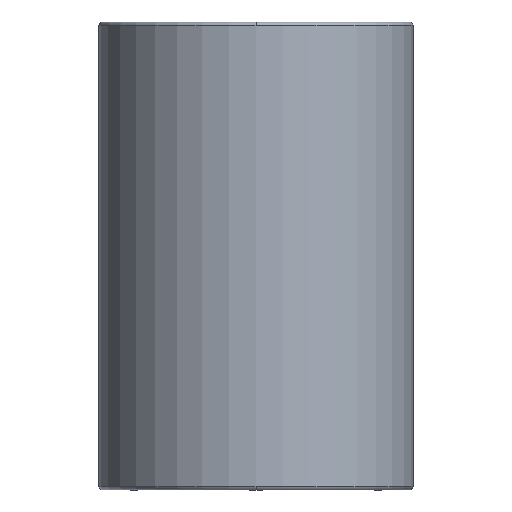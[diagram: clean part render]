
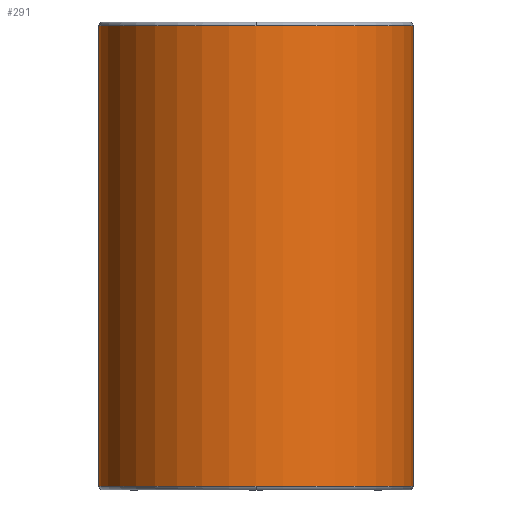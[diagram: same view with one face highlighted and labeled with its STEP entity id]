
A CAD part, front view. The second image highlights one B-rep face of the part: STEP entity #291.
In plain terms, the highlighted cylindrical face has radius 16.125 mm (diameter 32.25 mm), a partial arc.
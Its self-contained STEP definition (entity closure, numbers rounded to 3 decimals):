
#196=CARTESIAN_POINT('',(0.0,-16.125,30.1));
#197=VERTEX_POINT('',#196);
#223=CARTESIAN_POINT('',(-16.125,0.,30.1));
#224=VERTEX_POINT('',#223);
#232=CARTESIAN_POINT('',(0.0,0.,30.1));
#233=DIRECTION('',(0.0,0.0,1.0));
#234=DIRECTION('',(1.0,0.0,0.0));
#235=AXIS2_PLACEMENT_3D('',#232,#233,#234);
#236=CIRCLE('',#235,16.125);
#237=EDGE_CURVE('',#224,#197,#236,.T.);
#242=CARTESIAN_POINT('',(0.0,0.,6.5));
#243=DIRECTION('',(0.0,0.,1.0));
#244=DIRECTION('',(1.0,0.0,0.0));
#245=AXIS2_PLACEMENT_3D('',#242,#243,#244);
#246=CYLINDRICAL_SURFACE('',#245,16.125);
#247=CARTESIAN_POINT('',(16.125,0.,30.1));
#248=VERTEX_POINT('',#247);
#249=CARTESIAN_POINT('',(16.125,0.,-17.1));
#250=VERTEX_POINT('',#249);
#251=CARTESIAN_POINT('',(16.125,0.,30.1));
#252=DIRECTION('',(0.0,0.0,-1.0));
#253=VECTOR('',#252,47.2);
#254=LINE('',#251,#253);
#255=EDGE_CURVE('',#248,#250,#254,.T.);
#256=ORIENTED_EDGE('',*,*,#255,.F.);
#257=CARTESIAN_POINT('',(0.0,0.,30.1));
#258=DIRECTION('',(0.0,0.0,1.0));
#259=DIRECTION('',(1.0,0.0,0.0));
#260=AXIS2_PLACEMENT_3D('',#257,#258,#259);
#261=CIRCLE('',#260,16.125);
#262=EDGE_CURVE('',#197,#248,#261,.T.);
#263=ORIENTED_EDGE('',*,*,#262,.F.);
#264=ORIENTED_EDGE('',*,*,#237,.F.);
#265=CARTESIAN_POINT('',(-16.125,0.,-17.1));
#266=VERTEX_POINT('',#265);
#267=CARTESIAN_POINT('',(-16.125,0.,30.1));
#268=DIRECTION('',(0.0,0.0,-1.0));
#269=VECTOR('',#268,47.2);
#270=LINE('',#267,#269);
#271=EDGE_CURVE('',#224,#266,#270,.T.);
#272=ORIENTED_EDGE('',*,*,#271,.T.);
#273=CARTESIAN_POINT('',(0.0,-16.125,-17.1));
#274=VERTEX_POINT('',#273);
#275=CARTESIAN_POINT('',(0.0,0.,-17.1));
#276=DIRECTION('',(0.0,0.0,1.0));
#277=DIRECTION('',(1.0,0.0,0.0));
#278=AXIS2_PLACEMENT_3D('',#275,#276,#277);
#279=CIRCLE('',#278,16.125);
#280=EDGE_CURVE('',#266,#274,#279,.T.);
#281=ORIENTED_EDGE('',*,*,#280,.T.);
#282=CARTESIAN_POINT('',(0.0,0.,-17.1));
#283=DIRECTION('',(0.0,0.0,1.0));
#284=DIRECTION('',(1.0,0.0,0.0));
#285=AXIS2_PLACEMENT_3D('',#282,#283,#284);
#286=CIRCLE('',#285,16.125);
#287=EDGE_CURVE('',#274,#250,#286,.T.);
#288=ORIENTED_EDGE('',*,*,#287,.T.);
#289=EDGE_LOOP('',(#256,#263,#264,#272,#281,#288));
#290=FACE_OUTER_BOUND('',#289,.T.);
#291=ADVANCED_FACE('',(#290),#246,.T.);
